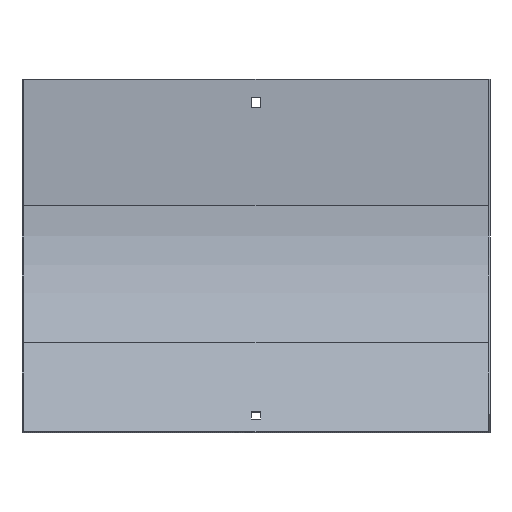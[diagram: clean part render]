
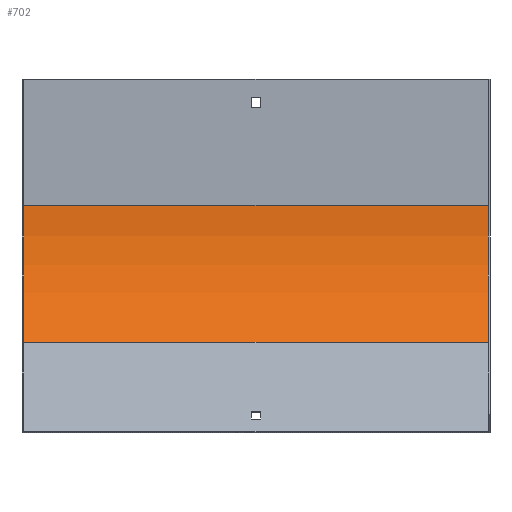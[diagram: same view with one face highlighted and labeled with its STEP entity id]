
A CAD part, front view. The second image highlights one B-rep face of the part: STEP entity #702.
In plain terms, the highlighted cylindrical face has radius 125 mm (diameter 250 mm), a partial arc.
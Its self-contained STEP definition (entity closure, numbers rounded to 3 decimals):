
#7 = VERTEX_POINT ( 'NONE', #131 ) ;
#8 = LINE ( 'NONE', #268, #178 ) ;
#62 = ORIENTED_EDGE ( 'NONE', *, *, #422, .T. ) ;
#66 = CARTESIAN_POINT ( 'NONE',  ( 151., -37.612, -169.809 ) ) ;
#73 = FACE_OUTER_BOUND ( 'NONE', #245, .T. ) ;
#95 = ORIENTED_EDGE ( 'NONE', *, *, #126, .F. ) ;
#122 = ORIENTED_EDGE ( 'NONE', *, *, #792, .F. ) ;
#126 = EDGE_CURVE ( 'NONE', #655, #129, #153, .T. ) ;
#129 = VERTEX_POINT ( 'NONE', #256 ) ;
#130 = CARTESIAN_POINT ( 'NONE',  ( -150., -37.612, -169.809 ) ) ;
#131 = CARTESIAN_POINT ( 'NONE',  ( 150., -37.612, -169.809 ) ) ;
#149 = CYLINDRICAL_SURFACE ( 'NONE', #707, 125. ) ;
#153 = CIRCLE ( 'NONE', #165, 125. ) ;
#165 = AXIS2_PLACEMENT_3D ( 'NONE', #313, #665, #444 ) ;
#178 = VECTOR ( 'NONE', #415, 1000. ) ;
#217 = EDGE_CURVE ( 'NONE', #225, #129, #8, .T. ) ;
#225 = VERTEX_POINT ( 'NONE', #614 ) ;
#245 = EDGE_LOOP ( 'NONE', ( #95, #122, #62, #566 ) ) ;
#254 = LINE ( 'NONE', #66, #719 ) ;
#256 = CARTESIAN_POINT ( 'NONE',  ( -150., -1., -81.421 ) ) ;
#268 = CARTESIAN_POINT ( 'NONE',  ( 151., -1., -81.421 ) ) ;
#293 = DIRECTION ( 'NONE',  ( 0., 0., 1. ) ) ;
#313 = CARTESIAN_POINT ( 'NONE',  ( -150., -126., -81.421 ) ) ;
#360 = CARTESIAN_POINT ( 'NONE',  ( 150., -126., -81.421 ) ) ;
#372 = DIRECTION ( 'NONE',  ( 1., 0., 0. ) ) ;
#415 = DIRECTION ( 'NONE',  ( -1., 0., 0. ) ) ;
#422 = EDGE_CURVE ( 'NONE', #7, #225, #571, .T. ) ;
#444 = DIRECTION ( 'NONE',  ( 0., 0., 1. ) ) ;
#473 = DIRECTION ( 'NONE',  ( 0., 0., 1. ) ) ;
#476 = AXIS2_PLACEMENT_3D ( 'NONE', #360, #372, #293 ) ;
#566 = ORIENTED_EDGE ( 'NONE', *, *, #217, .T. ) ;
#571 = CIRCLE ( 'NONE', #476, 125. ) ;
#574 = DIRECTION ( 'NONE',  ( -1., 0., 0. ) ) ;
#614 = CARTESIAN_POINT ( 'NONE',  ( 150., -1., -81.421 ) ) ;
#655 = VERTEX_POINT ( 'NONE', #130 ) ;
#665 = DIRECTION ( 'NONE',  ( 1., 0., 0. ) ) ;
#693 = DIRECTION ( 'NONE',  ( -1., 0., 0. ) ) ;
#702 = ADVANCED_FACE ( 'NONE', ( #73 ), #149, .F. ) ;
#707 = AXIS2_PLACEMENT_3D ( 'NONE', #810, #693, #473 ) ;
#719 = VECTOR ( 'NONE', #574, 1000. ) ;
#792 = EDGE_CURVE ( 'NONE', #7, #655, #254, .T. ) ;
#810 = CARTESIAN_POINT ( 'NONE',  ( 151., -126., -81.421 ) ) ;
